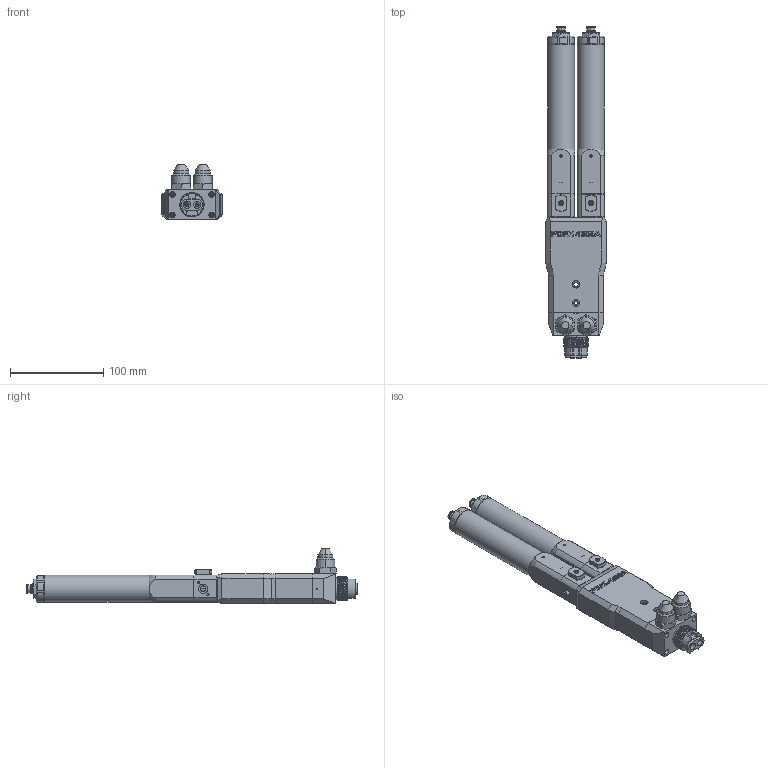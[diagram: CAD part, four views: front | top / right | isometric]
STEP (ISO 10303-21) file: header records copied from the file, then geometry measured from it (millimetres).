
FILE_DESCRIPTION (( 'STEP AP214' ), '1' );
FILE_NAME ('PDPM-1500-500FA.STEP', '2024-10-11T12:34:00', ( '' ), ( '' ), 'SwSTEP 2.0', 'SolidWorks 2024', '' );
FILE_SCHEMA (( 'AUTOMOTIVE_DESIGN' ));
Length unit declared in the file: millimetre
Products named in the file (1): PDPM-1500-500FA
Bounding box: 65 x 356 x 59.3 mm (x, y, z)
Volume: 527848.7 mm3; surface area: 123329 mm2
Topology: 12 solids, 12 shells, 1500 faces, 3780 edges, 2405 vertices
Faces by surface type: plane 766, cylinder 433, cone 270, torus 12, bspline 11, sphere 8
Full cylindrical faces by diameter (mm): 29 x2
Entity records: 52734 total; most frequent: CARTESIAN_POINT 16817, ORIENTED_EDGE 7488, DIRECTION 7350, EDGE_CURVE 3744, AXIS2_PLACEMENT_3D 2617, VERTEX_POINT 2405, LINE 2116, VECTOR 2116
